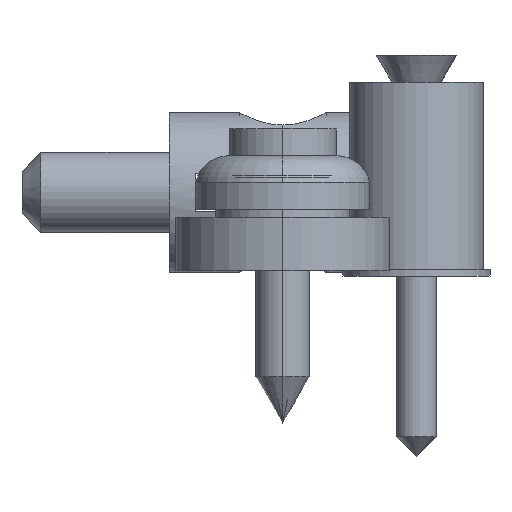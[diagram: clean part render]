
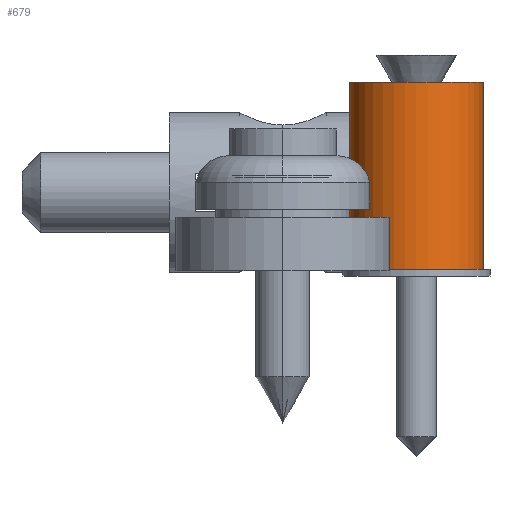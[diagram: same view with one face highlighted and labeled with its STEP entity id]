
A CAD part, left-side view. The second image highlights one B-rep face of the part: STEP entity #679.
In plain terms, the highlighted cylindrical face has radius 5 mm (diameter 10 mm), a partial arc.
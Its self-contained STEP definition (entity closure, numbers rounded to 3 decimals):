
#629 = EDGE_CURVE( '', #1543, #1055, #1723, .T. );
#679 = ADVANCED_FACE( '', ( #1779 ), #1780, .T. );
#683 = EDGE_CURVE( '', #1543, #1413, #1784, .T. );
#933 = EDGE_CURVE( '', #1413, #1513, #2064, .T. );
#1055 = VERTEX_POINT( '', #2205 );
#1413 = VERTEX_POINT( '', #2606 );
#1475 = EDGE_CURVE( '', #1513, #1055, #2676, .T. );
#1513 = VERTEX_POINT( '', #2716 );
#1543 = VERTEX_POINT( '', #2748 );
#1723 = CIRCLE( '', #2953, 5. );
#1779 = FACE_OUTER_BOUND( '', #3024, .T. );
#1780 = CYLINDRICAL_SURFACE( '', #3025, 5. );
#1784 = LINE( '', #3031, #3032 );
#2064 = CIRCLE( '', #3500, 5. );
#2205 = CARTESIAN_POINT( '', ( 318., -5., 9.5 ) );
#2606 = CARTESIAN_POINT( '', ( 318., -15., -4.5 ) );
#2676 = LINE( '', #4464, #4465 );
#2716 = CARTESIAN_POINT( '', ( 318., -5., -4.5 ) );
#2748 = CARTESIAN_POINT( '', ( 318., -15., 9.5 ) );
#2953 = AXIS2_PLACEMENT_3D( '', #4778, #4779, #4780 );
#3024 = EDGE_LOOP( '', ( #4853, #4854, #4855, #4856 ) );
#3025 = AXIS2_PLACEMENT_3D( '', #4857, #4858, #4859 );
#3031 = CARTESIAN_POINT( '', ( 318., -15., 2.5 ) );
#3032 = VECTOR( '', #4863, 1. );
#3500 = AXIS2_PLACEMENT_3D( '', #5175, #5176, #5177 );
#4464 = CARTESIAN_POINT( '', ( 318., -5., 2.5 ) );
#4465 = VECTOR( '', #5969, 1. );
#4778 = CARTESIAN_POINT( '', ( 318., -10., 9.5 ) );
#4779 = DIRECTION( '', ( 0., 0., -1. ) );
#4780 = DIRECTION( '', ( 0., -1., 0. ) );
#4853 = ORIENTED_EDGE( '', *, *, #683, .F. );
#4854 = ORIENTED_EDGE( '', *, *, #629, .T. );
#4855 = ORIENTED_EDGE( '', *, *, #1475, .F. );
#4856 = ORIENTED_EDGE( '', *, *, #933, .F. );
#4857 = CARTESIAN_POINT( '', ( 318., -10., 2.5 ) );
#4858 = DIRECTION( '', ( 0., 0., 1. ) );
#4859 = DIRECTION( '', ( 0., -1., 0. ) );
#4863 = DIRECTION( '', ( 0., 0., -1. ) );
#5175 = CARTESIAN_POINT( '', ( 318., -10., -4.5 ) );
#5176 = DIRECTION( '', ( 0., 0., -1. ) );
#5177 = DIRECTION( '', ( 0., -1., 0. ) );
#5969 = DIRECTION( '', ( 0., 0., 1. ) );
